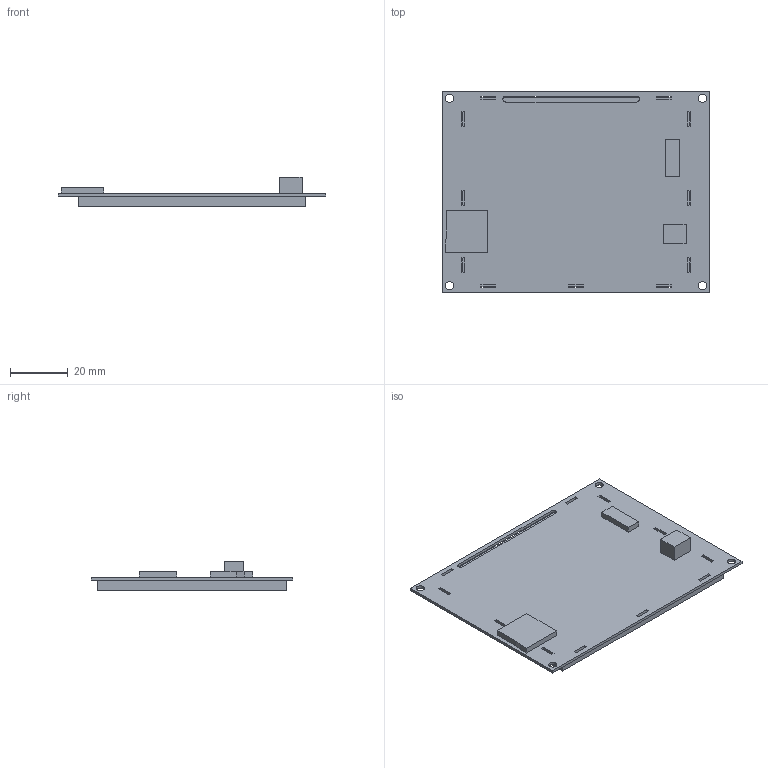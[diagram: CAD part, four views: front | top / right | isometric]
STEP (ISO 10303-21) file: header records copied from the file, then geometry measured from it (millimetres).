
FILE_DESCRIPTION((''),'2;1');
FILE_NAME('3D-DMT32240C035-06WT','2018-12-07T',('Administrator'),(''),'PRO/ENGINEER BY PARAMETRIC TECHNOLOGY CORPORATION, 2011310','PRO/ENGINEER BY PARAMETRIC TECHNOLOGY CORPORATION, 2011310','');
FILE_SCHEMA(('CONFIG_CONTROL_DESIGN','SHAPE_APPEARANCE_LAYERS_GROUPS'));
Length unit declared in the file: millimetre
Products named in the file (1): 3D-DMT32240C035-06WT
Bounding box: 92.96 x 70.1 x 10.35 mm (x, y, z)
Volume: 25060.3 mm3; surface area: 15052.2 mm2
Topology: 1 solids, 1 shells, 101 faces, 324 edges, 222 vertices
Faces by surface type: plane 91, cylinder 10
Entity records: 4388 total; most frequent: CARTESIAN_POINT 615, ORIENTED_EDGE 588, DIRECTION 552, VECTOR 302, LINE 302, EDGE_CURVE 294, VERTEX_POINT 188, PRESENTATION_STYLE_ASSIGNMENT 133
